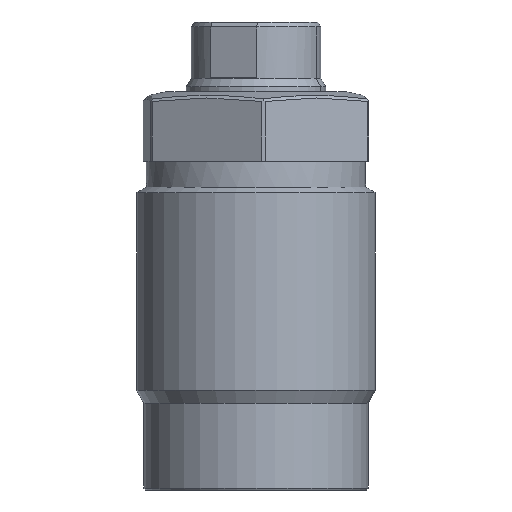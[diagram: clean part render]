
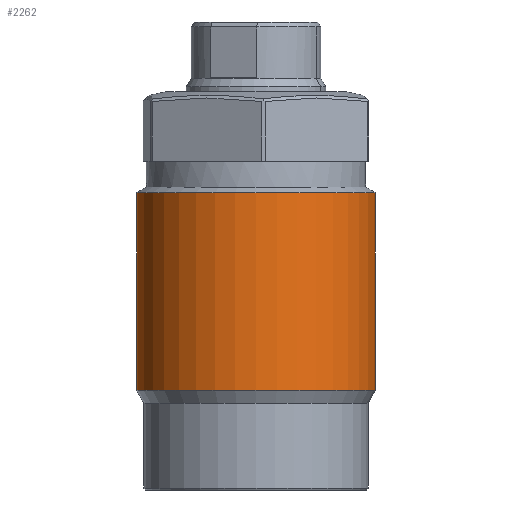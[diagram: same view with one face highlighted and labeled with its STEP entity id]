
A CAD part, front view. The second image highlights one B-rep face of the part: STEP entity #2262.
In plain terms, the highlighted cylindrical face has radius 12 mm (diameter 24 mm), a partial arc.
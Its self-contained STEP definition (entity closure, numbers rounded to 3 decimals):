
#63 = VECTOR ( 'NONE', #2351, 1000. ) ;
#67 = ORIENTED_EDGE ( 'NONE', *, *, #786, .T. ) ;
#192 = DIRECTION ( 'NONE',  ( -1., 0., 0. ) ) ;
#246 = DIRECTION ( 'NONE',  ( 0., 0., -1. ) ) ;
#472 = CIRCLE ( 'NONE', #1408, 12. ) ;
#479 = LINE ( 'NONE', #1432, #63 ) ;
#587 = ORIENTED_EDGE ( 'NONE', *, *, #2703, .F. ) ;
#626 = VERTEX_POINT ( 'NONE', #1805 ) ;
#721 = AXIS2_PLACEMENT_3D ( 'NONE', #944, #246, #192 ) ;
#786 = EDGE_CURVE ( 'NONE', #1662, #2905, #479, .T. ) ;
#865 = DIRECTION ( 'NONE',  ( 0., 0., 1. ) ) ;
#944 = CARTESIAN_POINT ( 'NONE',  ( 0., 0., 29.845 ) ) ;
#954 = CARTESIAN_POINT ( 'NONE',  ( 12., 0., 29.845 ) ) ;
#1071 = CARTESIAN_POINT ( 'NONE',  ( -12., 0., 29.845 ) ) ;
#1256 = ORIENTED_EDGE ( 'NONE', *, *, #1458, .T. ) ;
#1280 = LINE ( 'NONE', #2914, #2035 ) ;
#1289 = ORIENTED_EDGE ( 'NONE', *, *, #1654, .T. ) ;
#1321 = CARTESIAN_POINT ( 'NONE',  ( 0., 0., 10. ) ) ;
#1408 = AXIS2_PLACEMENT_3D ( 'NONE', #1321, #865, #2029 ) ;
#1432 = CARTESIAN_POINT ( 'NONE',  ( -12., 0., 33. ) ) ;
#1441 = DIRECTION ( 'NONE',  ( -1., 0., 0. ) ) ;
#1458 = EDGE_CURVE ( 'NONE', #1892, #1662, #2622, .T. ) ;
#1639 = FACE_OUTER_BOUND ( 'NONE', #2685, .T. ) ;
#1654 = EDGE_CURVE ( 'NONE', #2905, #626, #472, .T. ) ;
#1662 = VERTEX_POINT ( 'NONE', #1071 ) ;
#1668 = CARTESIAN_POINT ( 'NONE',  ( 0., 0., 33. ) ) ;
#1805 = CARTESIAN_POINT ( 'NONE',  ( 12., 0., 10. ) ) ;
#1818 = CARTESIAN_POINT ( 'NONE',  ( -12., 0., 10. ) ) ;
#1892 = VERTEX_POINT ( 'NONE', #954 ) ;
#2029 = DIRECTION ( 'NONE',  ( -1., 0., 0. ) ) ;
#2035 = VECTOR ( 'NONE', #2430, 1000. ) ;
#2101 = CYLINDRICAL_SURFACE ( 'NONE', #2817, 12. ) ;
#2262 = ADVANCED_FACE ( 'NONE', ( #1639 ), #2101, .T. ) ;
#2351 = DIRECTION ( 'NONE',  ( 0., 0., -1. ) ) ;
#2430 = DIRECTION ( 'NONE',  ( 0., 0., -1. ) ) ;
#2601 = DIRECTION ( 'NONE',  ( 0., 0., -1. ) ) ;
#2622 = CIRCLE ( 'NONE', #721, 12. ) ;
#2685 = EDGE_LOOP ( 'NONE', ( #587, #1256, #67, #1289 ) ) ;
#2703 = EDGE_CURVE ( 'NONE', #1892, #626, #1280, .T. ) ;
#2817 = AXIS2_PLACEMENT_3D ( 'NONE', #1668, #2601, #1441 ) ;
#2905 = VERTEX_POINT ( 'NONE', #1818 ) ;
#2914 = CARTESIAN_POINT ( 'NONE',  ( 12., 0., 33. ) ) ;
